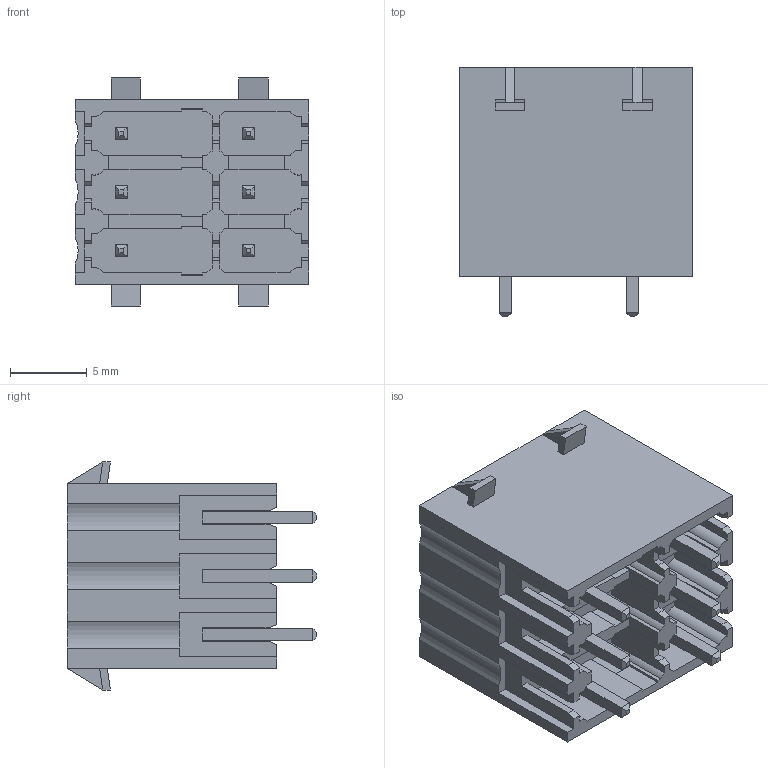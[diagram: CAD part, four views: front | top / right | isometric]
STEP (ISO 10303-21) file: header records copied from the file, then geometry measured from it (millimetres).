
FILE_DESCRIPTION((''),'2;1');
FILE_NAME('33','2019-04-12T',('zhenbing.lai'),(''),'CREO PARAMETRIC BY PTC INC, 2016260','CREO PARAMETRIC BY PTC INC, 2016260','');
FILE_SCHEMA(('CONFIG_CONTROL_DESIGN'));
Length unit declared in the file: millimetre
Products named in the file (1): 33
Bounding box: 15.2 x 16.21 x 14.82 mm (x, y, z)
Volume: 1281.1 mm3; surface area: 2685.9 mm2
Topology: 1 solids, 1 shells, 589 faces, 1601 edges, 1035 vertices
Faces by surface type: plane 547, cylinder 36, cone 6
Entity records: 18218 total; most frequent: CARTESIAN_POINT 3285, ORIENTED_EDGE 3202, DIRECTION 2872, EDGE_CURVE 1601, VECTOR 1484, LINE 1484, VERTEX_POINT 1035, AXIS2_PLACEMENT_3D 694
